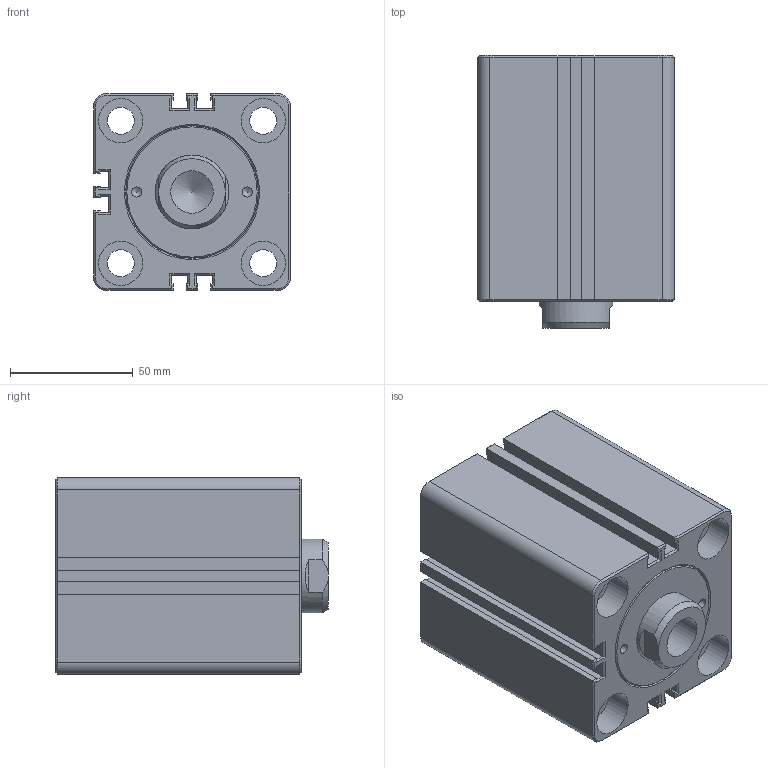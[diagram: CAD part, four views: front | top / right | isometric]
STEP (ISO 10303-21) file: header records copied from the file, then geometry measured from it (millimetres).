
FILE_DESCRIPTION(/* description */ ('Unknown'),/* implementation_level */ '2;1');
FILE_NAME(/* name */ 'HTM70-SD50X40N',/* time_stamp */ '2022-08-31T02:49:08+08:00',/* author */ ('Unknown'),/* organization */ ('Unknown'),/* preprocessor_version */ 'ST-DEVELOPER v16.7',/* originating_system */ 'DEX',/* authorisation */ $);
FILE_SCHEMA (('AUTOMOTIVE_DESIGN {1 0 10303 214 3 1 1}'));
Length unit declared in the file: millimetre
Products named in the file (1): HTM70-SD50X40N
Bounding box: 80 x 111 x 80 mm (x, y, z)
Volume: 561615.5 mm3; surface area: 70500.7 mm2
Topology: 1 solids, 1 shells, 235 faces, 542 edges, 323 vertices
Faces by surface type: plane 176, cone 24, cylinder 23, bspline 12
Full cylindrical faces by diameter (mm): 4.1 x2, 6 x1, 11 x4, 12.301 x2, 17.294 x1, 18 x8, 30 x1
Entity records: 8001 total; most frequent: CARTESIAN_POINT 1285, ORIENTED_EDGE 1002, DIRECTION 992, EDGE_CURVE 501, LINE 390, VECTOR 390, VERTEX_POINT 312, AXIS2_PLACEMENT_3D 301
